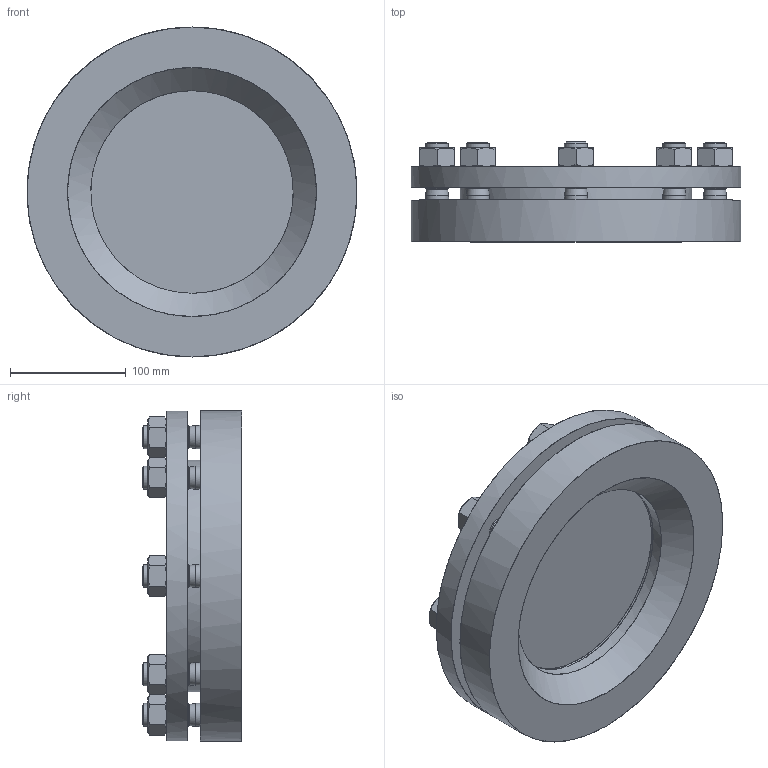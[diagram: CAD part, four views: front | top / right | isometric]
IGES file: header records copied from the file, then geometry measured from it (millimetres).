
Start section: C
Global section: file name: Armatur 28120  DN 150 PN6.igs; native system: By Siemens PLM Incorporated; preprocessor: XPlus GENERIC/IGES 18.0.17; author: Author; organization: Title; date: 20160808.101609; units: millimetre
Bounding box: 284.96 x 86 x 285 mm (x, y, z)
Surface area: 421535.2 mm2 (no closed solid volume)
Topology: 0 solids, 0 shells, 243 faces, 1342 edges, 1334 vertices
Faces by surface type: bspline 243
